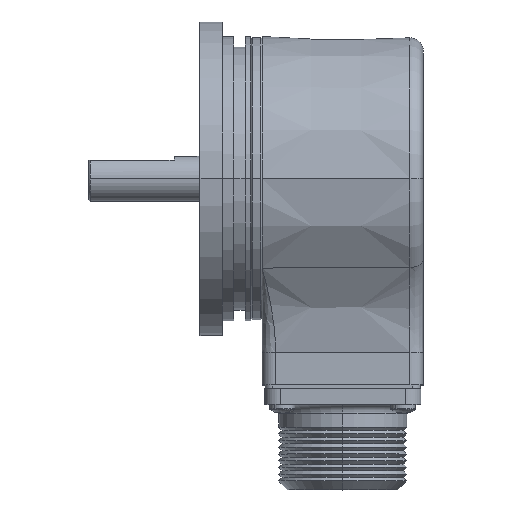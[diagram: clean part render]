
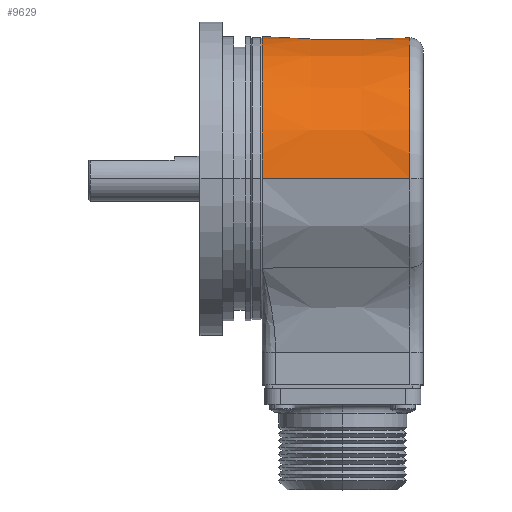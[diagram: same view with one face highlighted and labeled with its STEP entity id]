
A CAD part, top view. The second image highlights one B-rep face of the part: STEP entity #9629.
In plain terms, the highlighted conical face has half-angle 0.5 degrees and reference radius 31.75 mm.
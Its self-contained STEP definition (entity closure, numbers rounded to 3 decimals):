
#20 = EDGE_CURVE ( 'NONE', #5119, #1836, #10037, .T. ) ;
#813 = CARTESIAN_POINT ( 'NONE',  ( 46.226, 0., 31.462 ) ) ;
#999 = DIRECTION ( 'NONE',  ( -1., 0., 0.009 ) ) ;
#1112 = CARTESIAN_POINT ( 'NONE',  ( 13.2, 0., -31.75 ) ) ;
#1712 = VERTEX_POINT ( 'NONE', #8522 ) ;
#1836 = VERTEX_POINT ( 'NONE', #6959 ) ;
#1850 = AXIS2_PLACEMENT_3D ( 'NONE', #8143, #3481, #8939 ) ;
#2053 = DIRECTION ( 'NONE',  ( 0., 0., -1. ) ) ;
#2090 = DIRECTION ( 'NONE',  ( -1., 0., 0. ) ) ;
#2124 = CARTESIAN_POINT ( 'NONE',  ( 46.226, 0., 0. ) ) ;
#2303 = ORIENTED_EDGE ( 'NONE', *, *, #6980, .T. ) ;
#2551 = FACE_OUTER_BOUND ( 'NONE', #10021, .T. ) ;
#2644 = LINE ( 'NONE', #4919, #4473 ) ;
#2729 = DIRECTION ( 'NONE',  ( -1., 0., 0. ) ) ;
#2995 = EDGE_CURVE ( 'NONE', #6815, #1712, #5424, .T. ) ;
#3481 = DIRECTION ( 'NONE',  ( 1., 0., 0. ) ) ;
#3988 = LINE ( 'NONE', #8336, #7886 ) ;
#4185 = AXIS2_PLACEMENT_3D ( 'NONE', #2124, #2090, #2053 ) ;
#4473 = VECTOR ( 'NONE', #999, 1000. ) ;
#4919 = CARTESIAN_POINT ( 'NONE',  ( 13.2, 0., 31.75 ) ) ;
#5119 = VERTEX_POINT ( 'NONE', #813 ) ;
#5211 = EDGE_CURVE ( 'NONE', #5119, #1712, #2644, .T. ) ;
#5424 = CIRCLE ( 'NONE', #1850, 31.75 ) ;
#5910 = ORIENTED_EDGE ( 'NONE', *, *, #20, .T. ) ;
#5968 = DIRECTION ( 'NONE',  ( -1., 0., -0.009 ) ) ;
#6194 = CONICAL_SURFACE ( 'NONE', #7118, 31.75, 0.009 ) ;
#6659 = DIRECTION ( 'NONE',  ( 0., 0., 1. ) ) ;
#6815 = VERTEX_POINT ( 'NONE', #1112 ) ;
#6959 = CARTESIAN_POINT ( 'NONE',  ( 46.226, 0., -31.462 ) ) ;
#6980 = EDGE_CURVE ( 'NONE', #1836, #6815, #3988, .T. ) ;
#7118 = AXIS2_PLACEMENT_3D ( 'NONE', #9747, #2729, #6659 ) ;
#7886 = VECTOR ( 'NONE', #5968, 1000. ) ;
#7983 = ORIENTED_EDGE ( 'NONE', *, *, #5211, .F. ) ;
#7984 = ORIENTED_EDGE ( 'NONE', *, *, #2995, .T. ) ;
#8143 = CARTESIAN_POINT ( 'NONE',  ( 13.2, 0., 0. ) ) ;
#8336 = CARTESIAN_POINT ( 'NONE',  ( 13.2, 0., -31.75 ) ) ;
#8522 = CARTESIAN_POINT ( 'NONE',  ( 13.2, 0., 31.75 ) ) ;
#8939 = DIRECTION ( 'NONE',  ( 0., 0., 1. ) ) ;
#9629 = ADVANCED_FACE ( 'NONE', ( #2551 ), #6194, .T. ) ;
#9747 = CARTESIAN_POINT ( 'NONE',  ( 13.2, 0., 0. ) ) ;
#10021 = EDGE_LOOP ( 'NONE', ( #5910, #2303, #7984, #7983 ) ) ;
#10037 = CIRCLE ( 'NONE', #4185, 31.462 ) ;
